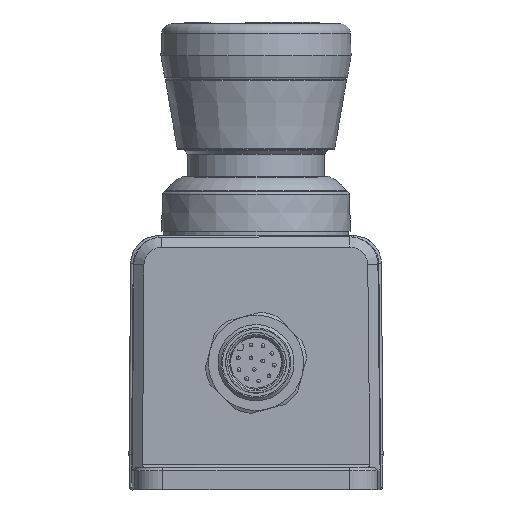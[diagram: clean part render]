
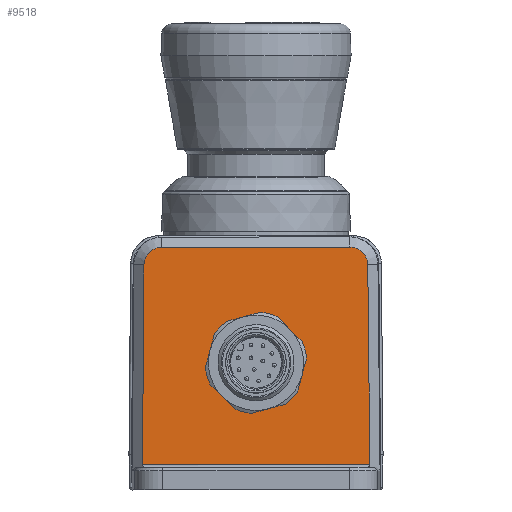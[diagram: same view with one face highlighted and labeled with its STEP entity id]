
A CAD part, front view. The second image highlights one B-rep face of the part: STEP entity #9518.
In plain terms, the highlighted planar face has unit normal (0, -1, 0).
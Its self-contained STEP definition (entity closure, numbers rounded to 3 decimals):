
#506=FACE_BOUND('',#2861,.T.);
#932=LINE('',#18295,#1449);
#964=LINE('',#18377,#1481);
#967=LINE('',#18388,#1484);
#970=LINE('',#18397,#1487);
#1449=VECTOR('',#13101,10.);
#1481=VECTOR('',#13177,10.);
#1484=VECTOR('',#13188,10.);
#1487=VECTOR('',#13199,10.);
#2245=FACE_OUTER_BOUND('',#2860,.T.);
#2860=EDGE_LOOP('',(#8288,#8289,#8290,#8291,#8292,#8293));
#2861=EDGE_LOOP('',(#8294));
#3479=CIRCLE('',#10599,6.05);
#3490=CIRCLE('',#10627,2.8);
#3492=CIRCLE('',#10631,2.8);
#4351=VERTEX_POINT('',#18284);
#4352=VERTEX_POINT('',#18288);
#4355=VERTEX_POINT('',#18293);
#4383=VERTEX_POINT('',#18375);
#4385=VERTEX_POINT('',#18381);
#4387=VERTEX_POINT('',#18386);
#4389=VERTEX_POINT('',#18393);
#5660=EDGE_CURVE('',#4351,#4351,#3479,.T.);
#5664=EDGE_CURVE('',#4355,#4352,#932,.T.);
#5705=EDGE_CURVE('',#4383,#4355,#964,.T.);
#5708=EDGE_CURVE('',#4385,#4383,#3490,.T.);
#5710=EDGE_CURVE('',#4387,#4385,#967,.T.);
#5714=EDGE_CURVE('',#4389,#4387,#3492,.T.);
#5715=EDGE_CURVE('',#4352,#4389,#970,.T.);
#8288=ORIENTED_EDGE('',*,*,#5664,.F.);
#8289=ORIENTED_EDGE('',*,*,#5705,.F.);
#8290=ORIENTED_EDGE('',*,*,#5708,.F.);
#8291=ORIENTED_EDGE('',*,*,#5710,.F.);
#8292=ORIENTED_EDGE('',*,*,#5714,.F.);
#8293=ORIENTED_EDGE('',*,*,#5715,.F.);
#8294=ORIENTED_EDGE('',*,*,#5660,.T.);
#9030=PLANE('',#10648);
#9518=ADVANCED_FACE('',(#2245,#506),#9030,.T.);
#10599=AXIS2_PLACEMENT_3D('',#18286,#13092,#13093);
#10627=AXIS2_PLACEMENT_3D('',#18383,#13183,#13184);
#10631=AXIS2_PLACEMENT_3D('',#18395,#13195,#13196);
#10648=AXIS2_PLACEMENT_3D('',#18438,#13246,#13247);
#13092=DIRECTION('center_axis',(0.,1.,0.));
#13093=DIRECTION('ref_axis',(-0.966,0.,0.259));
#13101=DIRECTION('',(-1.,0.,0.));
#13177=DIRECTION('',(0.009,0.,-1.));
#13183=DIRECTION('center_axis',(0.,1.,0.));
#13184=DIRECTION('ref_axis',(0.704,0.,0.71));
#13188=DIRECTION('',(1.,0.,0.));
#13195=DIRECTION('center_axis',(0.,1.,0.));
#13196=DIRECTION('ref_axis',(-0.704,0.,0.71));
#13199=DIRECTION('',(0.009,0.,1.));
#13246=DIRECTION('center_axis',(0.,-1.,0.));
#13247=DIRECTION('ref_axis',(-1.,0.,0.));
#18284=CARTESIAN_POINT('',(5.844,-7.,-1.566));
#18286=CARTESIAN_POINT('Origin',(0.,-7.,0.));
#18288=CARTESIAN_POINT('',(-17.896,-7.,-16.));
#18293=CARTESIAN_POINT('',(17.896,-7.,-16.));
#18295=CARTESIAN_POINT('',(9.75,-7.,-16.));
#18375=CARTESIAN_POINT('',(17.621,-7.,15.424));
#18377=CARTESIAN_POINT('',(17.828,-7.,-8.27));
#18381=CARTESIAN_POINT('',(14.821,-7.,18.2));
#18383=CARTESIAN_POINT('Origin',(14.821,-7.,15.4));
#18386=CARTESIAN_POINT('',(-14.821,-7.,18.2));
#18388=CARTESIAN_POINT('',(9.592,-7.,18.2));
#18393=CARTESIAN_POINT('',(-17.621,-7.,15.424));
#18395=CARTESIAN_POINT('Origin',(-14.821,-7.,15.4));
#18397=CARTESIAN_POINT('',(-17.67,-7.,9.88));
#18438=CARTESIAN_POINT('Origin',(0.,-7.,-0.18));
